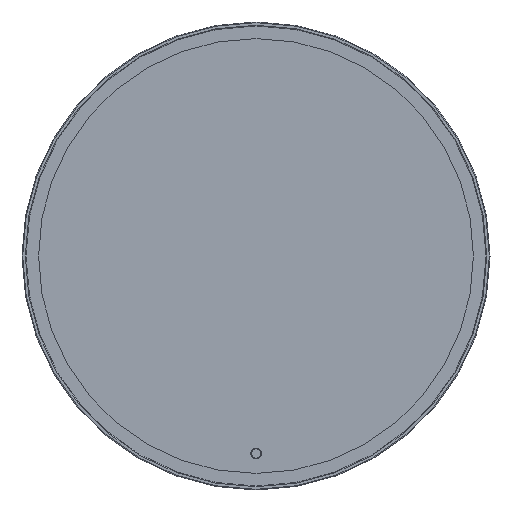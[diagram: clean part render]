
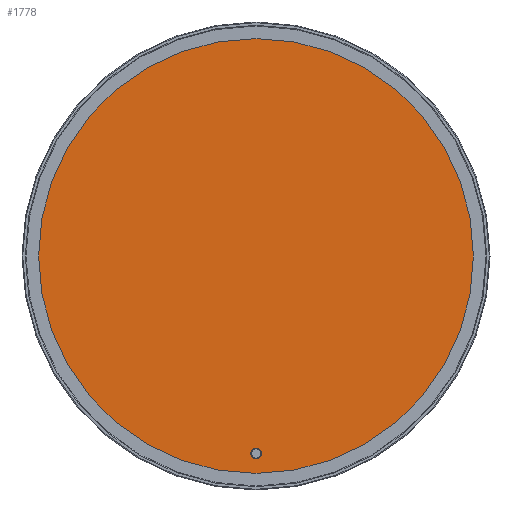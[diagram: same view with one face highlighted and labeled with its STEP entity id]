
A CAD part, front view. The second image highlights one B-rep face of the part: STEP entity #1778.
In plain terms, the highlighted planar face has unit normal (0, -1, 0).
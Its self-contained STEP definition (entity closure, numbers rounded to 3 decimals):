
#436=ORIENTED_EDGE('',*,*,#905,.T.);
#437=ORIENTED_EDGE('',*,*,#903,.F.);
#903=EDGE_CURVE('',#1145,#1145,#1315,.T.);
#905=EDGE_CURVE('',#1147,#1147,#1317,.T.);
#1145=VERTEX_POINT('',#2736);
#1147=VERTEX_POINT('',#2742);
#1315=CIRCLE('',#1974,328.);
#1317=CIRCLE('',#1978,8.);
#1422=EDGE_LOOP('',(#436));
#1423=EDGE_LOOP('',(#437));
#1580=FACE_BOUND('',#1422,.T.);
#1581=FACE_BOUND('',#1423,.T.);
#1714=PLANE('',#1977);
#1778=ADVANCED_FACE('',(#1580,#1581),#1714,.F.);
#1974=AXIS2_PLACEMENT_3D('',#2735,#2206,#2207);
#1977=AXIS2_PLACEMENT_3D('',#2740,#2212,#2213);
#1978=AXIS2_PLACEMENT_3D('',#2741,#2214,#2215);
#2206=DIRECTION('',(0.,1.,0.));
#2207=DIRECTION('',(1.,0.,0.));
#2212=DIRECTION('',(0.,1.,0.));
#2213=DIRECTION('',(0.,0.,1.));
#2214=DIRECTION('',(0.,1.,0.));
#2215=DIRECTION('',(1.,0.,0.));
#2735=CARTESIAN_POINT('',(199.427,0.,72.079));
#2736=CARTESIAN_POINT('',(527.427,0.,72.079));
#2740=CARTESIAN_POINT('',(199.427,0.,72.079));
#2741=CARTESIAN_POINT('',(199.684,0.,-225.921));
#2742=CARTESIAN_POINT('',(207.684,0.,-225.921));
